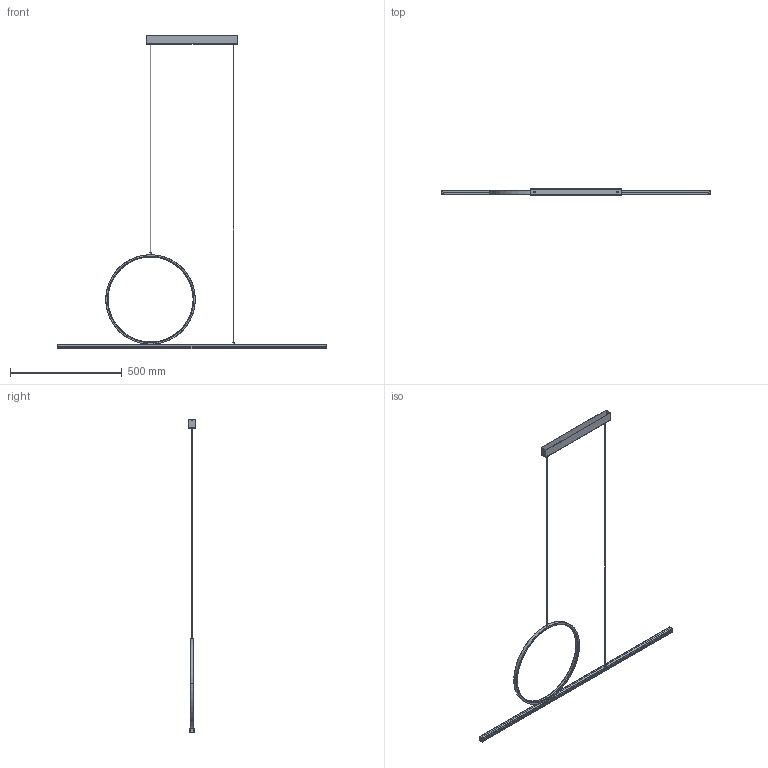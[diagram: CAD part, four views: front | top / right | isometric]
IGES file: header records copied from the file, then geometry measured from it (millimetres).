
Start section: SolidWorks IGES file using analytic representation for surfaces
Global section: file name: C:\Users\anna.bielnik\Desktop\LINEO-LED-11879-11885\LINEO-LED.IGS; native system: SolidWorks 2024; preprocessor: SolidWorks 2024; author: anna.bielnik; date: 250319.142053; units: millimetre
Bounding box: 1204 x 30 x 1400 mm (x, y, z)
Surface area: 432439.6 mm2 (no closed solid volume)
Topology: 0 solids, 0 shells, 373 faces, 5007 edges, 4998 vertices
Faces by surface type: bspline 218, revolution 155
